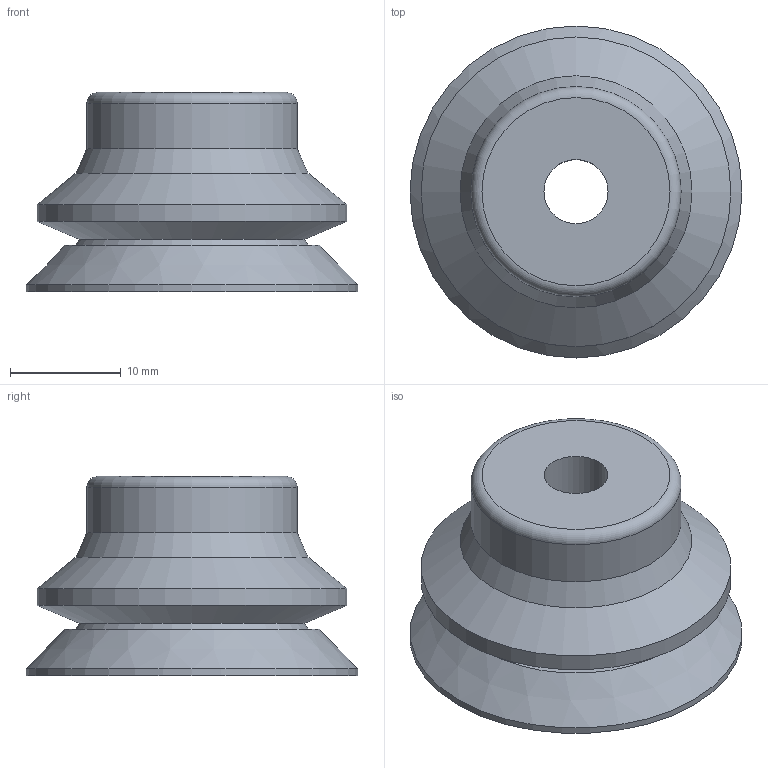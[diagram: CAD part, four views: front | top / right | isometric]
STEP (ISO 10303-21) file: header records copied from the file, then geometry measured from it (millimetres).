
FILE_DESCRIPTION(('STEP AP203'),'1');
FILE_NAME('PYKG-30.stp','2025-05-26T05:23:48',(' '),(' '),'Spatial InterOp 3D',' ',' ');
FILE_SCHEMA(('CONFIG_CONTROL_DESIGN'));
Length unit declared in the file: millimetre
Products named in the file (1): 1
Bounding box: 30 x 30 x 18 mm (x, y, z)
Volume: 4841.9 mm3; surface area: 3874 mm2
Topology: 1 solids, 1 shells, 22 faces, 38 edges, 22 vertices
Faces by surface type: cone 8, cylinder 7, plane 6, torus 1
Full cylindrical faces by diameter (mm): 5.8 x1, 9 x1, 10.8 x1, 19 x1, 28 x1, 28.4 x1, 30 x1
Entity records: 496 total; most frequent: DIRECTION 90, CARTESIAN_POINT 68, AXIS2_PLACEMENT_3D 45, EDGE_LOOP 44, ORIENTED_EDGE 44, FACE_OUTER_BOUND 30, VERTEX_POINT 23, ADVANCED_FACE 22
